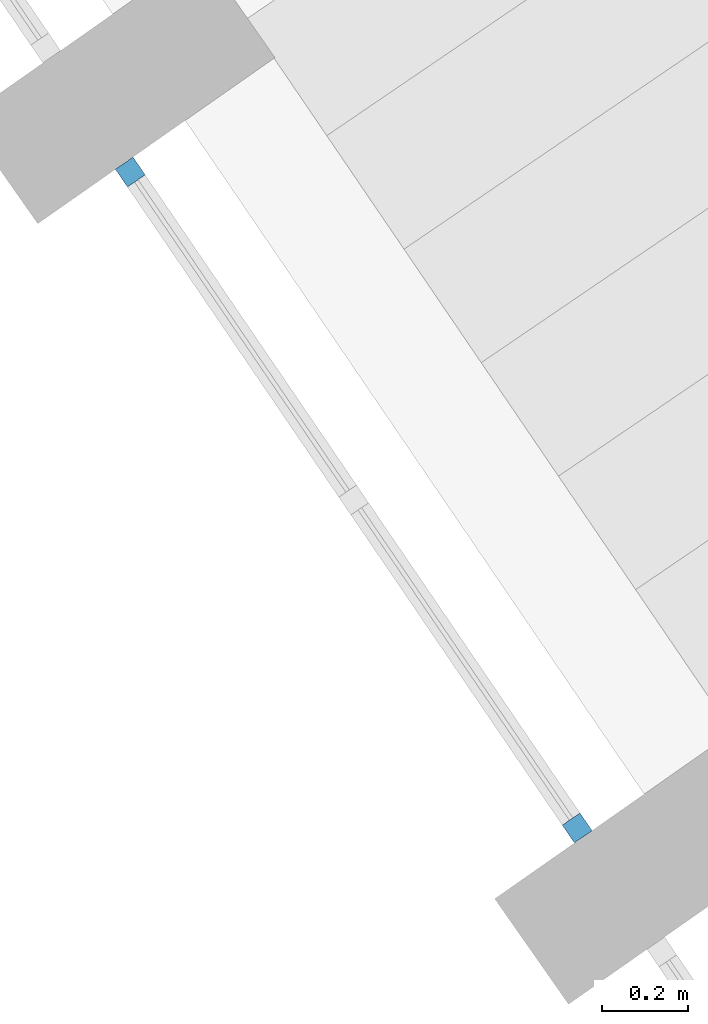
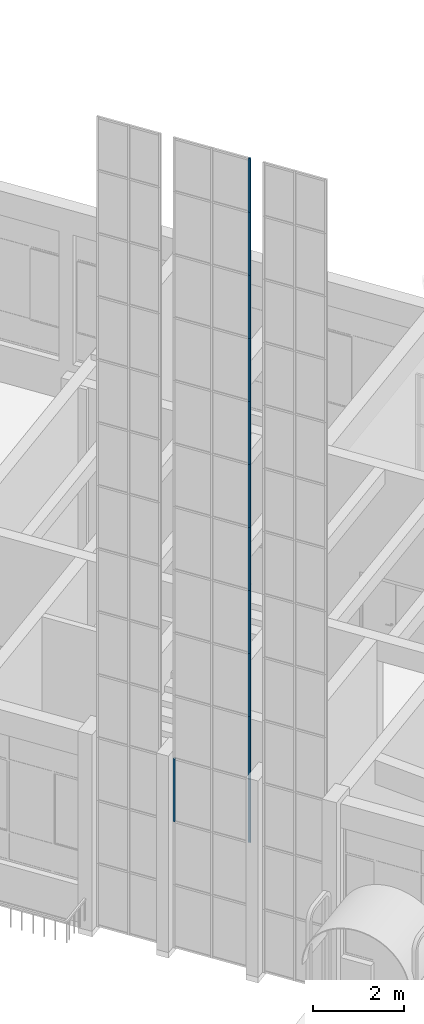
# One storey, part 12 of 157: 12 members, 1 element without a shape of its own.
"""IFC2X3 building model written with IfcOpenShell, lengths in millimetres."""

import ifcopenshell
import ifcopenshell.guid

model = None  # the IFC model being written
_history = None  # IfcOwnerHistory: only IFC2X3 demands one
_inside = {}  # id of a spatial element -> (the spatial element, [elements in it])
_under = {}  # id of a project, library or spatial element -> (it, [spatial elements below it])
_declared = {}  # id of a project -> (the project, [libraries it declares])
_typed = {}  # id of a type object -> (the type object, [elements of that type])
_made_of = {}  # id of a material, layer set ... -> (it, [elements and type objects made of it])


def new_model(schema):
    """Start an empty IFC model of exactly this schema.

    Asked for "IFC4X3", IfcOpenShell would pick the latest addendum, in which some entities
    have other attributes; the version numbers below select the first issue.
    IFC2X3 requires an IfcOwnerHistory on every rooted entity: one is made here for all.
    """
    global model, _history
    if schema == "IFC4X3":
        model = ifcopenshell.file(schema_version=(4, 3, 0, 0))
    else:
        model = ifcopenshell.file(schema=schema)
    _inside.clear()
    _under.clear()
    _declared.clear()
    _typed.clear()
    _made_of.clear()
    _history = None
    if model.schema == "IFC2X3":
        org = make("IfcOrganization", Name="unknown")
        user = make(
            "IfcPersonAndOrganization",
            ThePerson=make("IfcPerson", FamilyName="unknown"),
            TheOrganization=org,
        )
        app = make(
            "IfcApplication",
            ApplicationDeveloper=org,
            Version="unknown",
            ApplicationFullName="unknown",
            ApplicationIdentifier="unknown",
        )
        _history = make(
            "IfcOwnerHistory",
            OwningUser=user,
            OwningApplication=app,
            ChangeAction="ADDED",
            CreationDate=0,
        )
    return model


def make(cls, **values):
    """One entity of the class cls with the attributes given. An attribute that is None is left unset."""
    return model.create_entity(
        cls, **{name: value for name, value in values.items() if value is not None}
    )


def entity(cls, *values):
    """Any entity or typed value of the class cls, its attributes in the order of the schema. None: left unset."""
    e = model.create_entity(cls)
    for i, value in enumerate(values):
        if value is not None:
            e[i] = value
    return e


def rooted(cls, **values):
    """An entity with a GlobalId (a new one), such as an element, a storey or a relation."""
    return make(cls, GlobalId=ifcopenshell.guid.new(), OwnerHistory=_history, **values)


def si_unit(unit_type, name, prefix=None):
    """IfcSIUnit, for example si_unit("LENGTHUNIT", "METRE", prefix="MILLI")."""
    return make("IfcSIUnit", UnitType=unit_type, Prefix=prefix, Name=name)


def converted_unit(unit_type, name, factor, base, dimensions=None, offset=None):
    """IfcConversionBasedUnit, such as the inch: factor (a typed value) times the base unit."""
    return make(
        "IfcConversionBasedUnit"
        if offset is None
        else "IfcConversionBasedUnitWithOffset",
        ConversionOffset=offset,
        Dimensions=None
        if dimensions is None
        else entity("IfcDimensionalExponents", *dimensions),
        UnitType=unit_type,
        Name=name,
        ConversionFactor=make(
            "IfcMeasureWithUnit", ValueComponent=factor, UnitComponent=base
        ),
    )


def derived_unit(unit_type, elements):
    """IfcDerivedUnit: a product of units, each with its exponent."""
    return make(
        "IfcDerivedUnit",
        Elements=[
            make("IfcDerivedUnitElement", Unit=unit, Exponent=power)
            for unit, power in elements
        ],
        UnitType=unit_type,
    )


def assignment(units):
    """IfcUnitAssignment: the units of a project."""
    return None if units is None else make("IfcUnitAssignment", Units=units)


def point(xyz):
    """IfcCartesianPoint."""
    return None if xyz is None else make("IfcCartesianPoint", Coordinates=xyz)


def direction(xyz):
    """IfcDirection."""
    return None if xyz is None else make("IfcDirection", DirectionRatios=xyz)


def frame(location, z_axis=None, x_axis=None):
    """IfcAxis2Placement3D, a coordinate frame: its origin and axes. An axis left out is left unset."""
    return make(
        "IfcAxis2Placement3D",
        Location=point(location),
        Axis=direction(z_axis),
        RefDirection=direction(x_axis),
    )


def frame_2d(location, x_axis=None):
    """IfcAxis2Placement2D, a coordinate frame in the plane: its origin and x axis."""
    return make(
        "IfcAxis2Placement2D", Location=point(location), RefDirection=direction(x_axis)
    )


def origin():
    """The frame at (0, 0, 0) with its axes left unset."""
    return frame((0.0, 0.0, 0.0))


def origin_2d_with_axis():
    """The frame at (0, 0) in the plane with the x axis (1, 0) written out."""
    return frame_2d((0.0, 0.0), x_axis=(1.0, 0.0))


def place(relative_to, where):
    """IfcLocalPlacement: puts the frame where relative to a parent placement (None: the world)."""
    return make(
        "IfcLocalPlacement", PlacementRelTo=relative_to, RelativePlacement=where
    )


def context(
    kind, dimensions, precision=None, world=None, true_north=None, identifier=None
):
    """IfcGeometricRepresentationContext, for example the 3D "Model" context."""
    return make(
        "IfcGeometricRepresentationContext",
        ContextIdentifier=identifier,
        ContextType=kind,
        CoordinateSpaceDimension=dimensions,
        Precision=precision,
        WorldCoordinateSystem=world,
        TrueNorth=true_north,
    )


def subcontext(parent, identifier, kind, view, scale=None):
    """IfcGeometricRepresentationSubContext, for example "Body" below "Model"."""
    return make(
        "IfcGeometricRepresentationSubContext",
        ContextIdentifier=identifier,
        ContextType=kind,
        ParentContext=parent,
        TargetScale=scale,
        TargetView=view,
    )


def project(units=None, contexts=None):
    """IfcProject with its units and contexts."""
    return rooted(
        "IfcProject",
        Name="project",
        RepresentationContexts=contexts,
        UnitsInContext=assignment(units),
    )


def spatial(cls, under=None, at=None, **own):
    """A site, building, storey or space (cls), placed at a placement, below another one or the project."""
    s = rooted(cls, ObjectPlacement=at, **own)
    if under is not None:
        _under.setdefault(under.id(), (under, []))[1].append(s)
    return s


def profile(cls, at=None, kind="AREA", **sizes):
    """A parametric profile (cls). Its sizes go by their IFC names, for example OverallWidth=200.0."""
    return make(cls, ProfileType=kind, Position=at, **sizes)


def rectangle(**sizes):
    """IfcRectangleProfileDef."""
    return profile("IfcRectangleProfileDef", **sizes)


def extrude(swept, where, along, depth):
    """IfcExtrudedAreaSolid: the profile swept, set in the frame where, extruded along a direction by depth."""
    return make(
        "IfcExtrudedAreaSolid",
        SweptArea=swept,
        Position=where,
        ExtrudedDirection=direction(along),
        Depth=depth,
    )


def shape(context_of_items, identifier, shape_type, items):
    """IfcShapeRepresentation: the items that make up one representation, for example the "Body"."""
    return make(
        "IfcShapeRepresentation",
        ContextOfItems=context_of_items,
        RepresentationIdentifier=identifier,
        RepresentationType=shape_type,
        Items=items,
    )


def source(mapping_origin, context_of_items, identifier, shape_type, items):
    """IfcRepresentationMap: a shape defined once, which mapped items show again and again."""
    return make(
        "IfcRepresentationMap",
        MappingOrigin=mapping_origin,
        MappedRepresentation=shape(context_of_items, identifier, shape_type, items),
    )


def transform(
    local_origin,
    x_axis=None,
    y_axis=None,
    z_axis=None,
    scale=None,
    scale2=None,
    scale3=None,
    uniform=True,
):
    """IfcCartesianTransformationOperator3D, or its non-uniform kind. x_axis, y_axis, z_axis: its Axis1, 2, 3."""
    if uniform:
        return make(
            "IfcCartesianTransformationOperator3D",
            Axis1=direction(x_axis),
            Axis2=direction(y_axis),
            LocalOrigin=point(local_origin),
            Scale=scale,
            Axis3=direction(z_axis),
        )
    return make(
        "IfcCartesianTransformationOperator3DnonUniform",
        Axis1=direction(x_axis),
        Axis2=direction(y_axis),
        LocalOrigin=point(local_origin),
        Scale=scale,
        Axis3=direction(z_axis),
        Scale2=scale2,
        Scale3=scale3,
    )


def mapped(mapping_source, mapping_target):
    """IfcMappedItem: shows the shape of a source again, moved by a transform."""
    return make(
        "IfcMappedItem", MappingSource=mapping_source, MappingTarget=mapping_target
    )


def material(Name=None, Category=None):
    """IfcMaterial."""
    return make("IfcMaterial", Name=Name, Category=Category)


def made_of(thing, what):
    """Note that an element or type object is made of a material, layer set ...; save() writes the relation."""
    if what is not None:
        _made_of.setdefault(what.id(), (what, []))[1].append(thing)
    return thing


def type_object(cls, material=None, **own):
    """A type object (cls), such as IfcWallType, which elements share."""
    return made_of(rooted(cls, **own), material)


def type_shapes(of_type, sources):
    """Give a type object the sources (RepresentationMaps) that its elements show as mapped items."""
    of_type.RepresentationMaps = sources


def element(
    cls,
    number,
    at=None,
    inside=None,
    cuts=None,
    type_object=None,
    material=None,
    context=None,
    identifier="Body",
    shape_type=None,
    held_by="IfcProductDefinitionShape",
    body=None,
    shapes=None,
    **own,
):
    """One element of the class cls, such as IfcWall. Its Tag is "e" and its number.

    at: its placement. inside: the storey or other place that contains it. cuts: it is an
    opening in that element (IfcRelVoidsElement). A single representation is given by context,
    identifier, shape_type and body (its items); several are given by shapes. held_by: the class
    of the entity that holds the representations. save() writes the other relations.
    """
    e = rooted(cls, Tag="e%d" % number, ObjectPlacement=at, **own)
    if body is not None:
        shapes = [shape(context, identifier, shape_type, body)]
    if shapes is not None:
        e.Representation = make(held_by, Representations=shapes)
    if inside is not None:
        _inside.setdefault(inside.id(), (inside, []))[1].append(e)
    if cuts is not None:
        rooted(
            "IfcRelVoidsElement", RelatingBuildingElement=cuts, RelatedOpeningElement=e
        )
    if type_object is not None:
        _typed.setdefault(type_object.id(), (type_object, []))[1].append(e)
    return made_of(e, material)


def aggregate(whole, parts):
    """IfcRelAggregates: a whole, such as a stair, and the parts it consists of."""
    return rooted("IfcRelAggregates", RelatingObject=whole, RelatedObjects=parts)


def save(model, path):
    """Write the relations noted so far, then the file.

    IfcRelAggregates (storeys below a building ...), IfcRelContainedInSpatialStructure (elements
    in a storey), IfcRelDefinesByType, IfcRelAssociatesMaterial and IfcRelDeclares: one each for
    every whole, place, type object, material and project.
    """
    for whole, parts in _under.values():
        aggregate(whole, parts)
    for where, things in _inside.values():
        rooted(
            "IfcRelContainedInSpatialStructure",
            RelatedElements=things,
            RelatingStructure=where,
        )
    for kind, things in _typed.values():
        rooted("IfcRelDefinesByType", RelatedObjects=things, RelatingType=kind)
    for what, things in _made_of.values():
        rooted("IfcRelAssociatesMaterial", RelatedObjects=things, RelatingMaterial=what)
    for by, libraries in _declared.values():
        rooted("IfcRelDeclares", RelatingContext=by, RelatedDefinitions=libraries)
    model.write(path)


model = new_model("IFC2X3")

# Units and contexts
model_context = context("Model", 3, precision=0.01, world=origin(), true_north=direction((6.123031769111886e-17, 1.0)))
body_context = subcontext(model_context, "Body", "Model", "MODEL_VIEW")
ifc_project = project(units=[si_unit("LENGTHUNIT", "METRE", prefix="MILLI"), si_unit("AREAUNIT", "SQUARE_METRE"), si_unit("VOLUMEUNIT", "CUBIC_METRE"), converted_unit("PLANEANGLEUNIT", "DEGREE", entity("IfcRatioMeasure", 0.017453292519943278), si_unit("PLANEANGLEUNIT", "RADIAN"), dimensions=[0, 0, 0, 0, 0, 0, 0]), si_unit("MASSUNIT", "GRAM", prefix="KILO"), derived_unit("MASSDENSITYUNIT", [(si_unit("MASSUNIT", "GRAM", prefix="KILO"), 1), (si_unit("LENGTHUNIT", "METRE"), -3)]), derived_unit("MOMENTOFINERTIAUNIT", [(si_unit("LENGTHUNIT", "METRE"), 4)]), si_unit("TIMEUNIT", "SECOND"), si_unit("FREQUENCYUNIT", "HERTZ"), si_unit("THERMODYNAMICTEMPERATUREUNIT", "DEGREE_CELSIUS"), derived_unit("THERMALTRANSMITTANCEUNIT", [(si_unit("MASSUNIT", "GRAM", prefix="KILO"), 1), (si_unit("THERMODYNAMICTEMPERATUREUNIT", "KELVIN"), -1), (si_unit("TIMEUNIT", "SECOND"), -3)]), derived_unit("THERMALCONDUCTANCEUNIT", [(si_unit("MASSUNIT", "GRAM", prefix="KILO"), 1), (si_unit("LENGTHUNIT", "METRE"), 1), (si_unit("THERMODYNAMICTEMPERATUREUNIT", "KELVIN"), -1), (si_unit("TIMEUNIT", "SECOND"), -3)]), derived_unit("VOLUMETRICFLOWRATEUNIT", [(si_unit("LENGTHUNIT", "METRE"), 3), (si_unit("TIMEUNIT", "SECOND"), -1)]), derived_unit("MASSFLOWRATEUNIT", [(si_unit("MASSUNIT", "GRAM", prefix="KILO"), 1), (si_unit("TIMEUNIT", "SECOND"), -1)]), derived_unit("ROTATIONALFREQUENCYUNIT", [(si_unit("TIMEUNIT", "SECOND"), -1)]), si_unit("ELECTRICCURRENTUNIT", "AMPERE"), si_unit("ELECTRICVOLTAGEUNIT", "VOLT"), si_unit("POWERUNIT", "WATT"), converted_unit("FORCEUNIT", "KIP", entity("IfcRatioMeasure", 2.088543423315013e-05), si_unit("FORCEUNIT", "NEWTON"), dimensions=[1, 1, -2, 0, 0, 0, 0]), si_unit("ILLUMINANCEUNIT", "LUX"), si_unit("LUMINOUSFLUXUNIT", "LUMEN"), si_unit("LUMINOUSINTENSITYUNIT", "CANDELA"), derived_unit("USERDEFINED", [(si_unit("MASSUNIT", "GRAM", prefix="KILO"), -1), (si_unit("LENGTHUNIT", "METRE"), -2), (si_unit("TIMEUNIT", "SECOND"), 3), (si_unit("LUMINOUSFLUXUNIT", "LUMEN"), 1)]), derived_unit("USERDEFINED", [(si_unit("MASSUNIT", "GRAM", prefix="KILO"), 1), (si_unit("LENGTHUNIT", "METRE"), 3), (si_unit("TIMEUNIT", "SECOND"), -3), (si_unit("ELECTRICCURRENTUNIT", "AMPERE"), -2)]), derived_unit("USERDEFINED", [(si_unit("LENGTHUNIT", "METRE"), 2), (si_unit("TIMEUNIT", "SECOND"), -2)]), derived_unit("SOUNDPOWERUNIT", [(si_unit("MASSUNIT", "GRAM", prefix="KILO"), 1), (si_unit("LENGTHUNIT", "METRE"), 2), (si_unit("TIMEUNIT", "SECOND"), -3)]), derived_unit("SOUNDPRESSUREUNIT", [(si_unit("MASSUNIT", "GRAM", prefix="KILO"), 1), (si_unit("LENGTHUNIT", "METRE"), -1), (si_unit("TIMEUNIT", "SECOND"), -2)]), derived_unit("LINEARVELOCITYUNIT", [(si_unit("LENGTHUNIT", "METRE"), 1), (si_unit("TIMEUNIT", "SECOND"), -1)]), si_unit("PRESSUREUNIT", "PASCAL"), derived_unit("USERDEFINED", [(si_unit("LENGTHUNIT", "METRE"), -2), (si_unit("MASSUNIT", "GRAM", prefix="KILO"), 1), (si_unit("TIMEUNIT", "SECOND"), -2)]), derived_unit("LINEARFORCEUNIT", [(si_unit("MASSUNIT", "GRAM", prefix="KILO"), 1), (si_unit("LENGTHUNIT", "METRE"), 1), (si_unit("TIMEUNIT", "SECOND"), -2), (si_unit("LENGTHUNIT", "METRE"), -1)]), derived_unit("PLANARFORCEUNIT", [(si_unit("MASSUNIT", "GRAM", prefix="KILO"), 1), (si_unit("LENGTHUNIT", "METRE"), 1), (si_unit("TIMEUNIT", "SECOND"), -2), (si_unit("LENGTHUNIT", "METRE"), -2)]), derived_unit("SPECIFICHEATCAPACITYUNIT", [(si_unit("LENGTHUNIT", "METRE"), 2), (si_unit("TIMEUNIT", "SECOND"), -2), (si_unit("THERMODYNAMICTEMPERATUREUNIT", "KELVIN"), -1)]), derived_unit("VAPORPERMEABILITYUNIT", [(si_unit("TIMEUNIT", "SECOND"), 1), (si_unit("LENGTHUNIT", "METRE"), -1)]), derived_unit("DYNAMICVISCOSITYUNIT", [(si_unit("MASSUNIT", "GRAM", prefix="KILO"), 1), (si_unit("LENGTHUNIT", "METRE"), -1), (si_unit("TIMEUNIT", "SECOND"), -1)]), derived_unit("THERMALEXPANSIONCOEFFICIENTUNIT", [(si_unit("THERMODYNAMICTEMPERATUREUNIT", "KELVIN"), -1)])], contexts=[model_context])

# Site, building, storey
site_placement = place(None, frame((0.0, 0.0, 0.0), z_axis=(0.0, 0.0, 1.0), x_axis=(0.8191520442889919, 0.5735764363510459, 0.0)))
site = spatial("IfcSite", under=ifc_project, at=site_placement, Name="Default", CompositionType="ELEMENT")
building_placement = place(site_placement, origin())
building = spatial("IfcBuilding", under=site, at=building_placement, CompositionType="ELEMENT")
storey_placement = place(building_placement, origin())
storey = spatial("IfcBuildingStorey", under=building, at=storey_placement, Name="1.EG +0.00", CompositionType="ELEMENT", Elevation=-4.331468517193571e-12)

# Curtain wall, members
curtain_wall_type = type_object("IfcCurtainWallType", Name="Curtain Wall:Curtain_Wall_CJC 2", PredefinedType="NOTDEFINED")
curtain_wall_placement = place(storey_placement, origin())
curtain_wall = element("IfcCurtainWall", 1, at=curtain_wall_placement, inside=storey, type_object=curtain_wall_type, Name="Curtain Wall:Curtain_Wall_CJC 2", ObjectType="Curtain Wall:Curtain_Wall_CJC 2")
ifc_material = material(Name="Aluminium")
member_type_1 = type_object("IfcMemberType", Name="Rectangular Mullion:5x5", PredefinedType="MULLION", material=ifc_material)
shared_shape_1 = source(origin(), body_context, "Body", "SweptSolid", [
    extrude(rectangle(XDim=50.0, YDim=50.0, at=origin_2d_with_axis()), frame((-25.0, 0.0, -1700.0), z_axis=(0.0, 0.0, 1.0), x_axis=(0.0, -1.0, 0.0)), (0.0, 0.0, 1.0), 1700.0000000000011),
])
type_shapes(member_type_1, [shared_shape_1])
member_1_placement = place(curtain_wall_placement, frame((-223098.59251653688, 111745.23194626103, 5100.0), z_axis=(0.0, 0.0, 1.0), x_axis=(-0.01272958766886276, -0.999918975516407, 0.0)))
member_1 = element("IfcMember", 2, at=member_1_placement, type_object=member_type_1, material=ifc_material, Name="Rectangular Mullion:5x5", ObjectType="Rectangular Mullion:5x5", context=body_context, shape_type="MappedRepresentation", body=[
    mapped(shared_shape_1, transform((0.0, 0.0, 0.0), scale=1.0)),
])
member_2_placement = place(curtain_wall_placement, frame((-223098.59251653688, 111745.23194626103, 6800.0), z_axis=(0.0, 0.0, 1.0), x_axis=(-0.01272958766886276, -0.999918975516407, 0.0)))
member_2 = element("IfcMember", 3, at=member_2_placement, type_object=member_type_1, material=ifc_material, Name="Rectangular Mullion:5x5", ObjectType="Rectangular Mullion:5x5", context=body_context, shape_type="MappedRepresentation", body=[
    mapped(shared_shape_1, transform((0.0, 0.0, 0.0), scale=1.0)),
])
member_3_placement = place(curtain_wall_placement, frame((-223098.59251653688, 111745.23194626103, 8500.0), z_axis=(0.0, 0.0, 1.0), x_axis=(-0.01272958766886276, -0.999918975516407, 0.0)))
member_3 = element("IfcMember", 4, at=member_3_placement, type_object=member_type_1, material=ifc_material, Name="Rectangular Mullion:5x5", ObjectType="Rectangular Mullion:5x5", context=body_context, shape_type="MappedRepresentation", body=[
    mapped(shared_shape_1, transform((0.0, 0.0, 0.0), scale=1.0)),
])
member_4_placement = place(curtain_wall_placement, frame((-223098.59251653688, 111745.23194626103, 10200.0), z_axis=(0.0, 0.0, 1.0), x_axis=(-0.01272958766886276, -0.999918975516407, 0.0)))
member_4 = element("IfcMember", 5, at=member_4_placement, type_object=member_type_1, material=ifc_material, Name="Rectangular Mullion:5x5", ObjectType="Rectangular Mullion:5x5", context=body_context, shape_type="MappedRepresentation", body=[
    mapped(shared_shape_1, transform((0.0, 0.0, 0.0), scale=1.0)),
])
member_5_placement = place(curtain_wall_placement, frame((-223098.59251653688, 111745.23194626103, 11900.0), z_axis=(0.0, 0.0, 1.0), x_axis=(-0.01272958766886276, -0.999918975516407, 0.0)))
member_5 = element("IfcMember", 6, at=member_5_placement, type_object=member_type_1, material=ifc_material, Name="Rectangular Mullion:5x5", ObjectType="Rectangular Mullion:5x5", context=body_context, shape_type="MappedRepresentation", body=[
    mapped(shared_shape_1, transform((0.0, 0.0, 0.0), scale=1.0)),
])
member_6_placement = place(curtain_wall_placement, frame((-223098.59251653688, 111745.23194626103, 13600.0), z_axis=(0.0, 0.0, 1.0), x_axis=(-0.01272958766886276, -0.999918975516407, 0.0)))
member_6 = element("IfcMember", 7, at=member_6_placement, type_object=member_type_1, material=ifc_material, Name="Rectangular Mullion:5x5", ObjectType="Rectangular Mullion:5x5", context=body_context, shape_type="MappedRepresentation", body=[
    mapped(shared_shape_1, transform((0.0, 0.0, 0.0), scale=1.0)),
])
member_7_placement = place(curtain_wall_placement, frame((-223098.59251653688, 111745.23194626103, 15300.0), z_axis=(0.0, 0.0, 1.0), x_axis=(-0.01272958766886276, -0.999918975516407, 0.0)))
member_7 = element("IfcMember", 8, at=member_7_placement, type_object=member_type_1, material=ifc_material, Name="Rectangular Mullion:5x5", ObjectType="Rectangular Mullion:5x5", context=body_context, shape_type="MappedRepresentation", body=[
    mapped(shared_shape_1, transform((0.0, 0.0, 0.0), scale=1.0)),
])
member_8_placement = place(curtain_wall_placement, frame((-223098.59251653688, 111745.23194626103, 17000.0), z_axis=(0.0, 0.0, 1.0), x_axis=(-0.01272958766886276, -0.999918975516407, 0.0)))
member_8 = element("IfcMember", 9, at=member_8_placement, type_object=member_type_1, material=ifc_material, Name="Rectangular Mullion:5x5", ObjectType="Rectangular Mullion:5x5", context=body_context, shape_type="MappedRepresentation", body=[
    mapped(shared_shape_1, transform((0.0, 0.0, 0.0), scale=1.0)),
])
member_9_placement = place(curtain_wall_placement, frame((-223098.59251653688, 111745.23194626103, 18700.0), z_axis=(0.0, 0.0, 1.0), x_axis=(-0.01272958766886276, -0.999918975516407, 0.0)))
member_9 = element("IfcMember", 10, at=member_9_placement, type_object=member_type_1, material=ifc_material, Name="Rectangular Mullion:5x5", ObjectType="Rectangular Mullion:5x5", context=body_context, shape_type="MappedRepresentation", body=[
    mapped(shared_shape_1, transform((0.0, 0.0, 0.0), scale=1.0)),
])
member_10_placement = place(curtain_wall_placement, frame((-223098.59251653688, 111745.23194626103, 20400.0), z_axis=(0.0, 0.0, 1.0), x_axis=(-0.01272958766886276, -0.999918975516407, 0.0)))
member_10 = element("IfcMember", 11, at=member_10_placement, type_object=member_type_1, material=ifc_material, Name="Rectangular Mullion:5x5", ObjectType="Rectangular Mullion:5x5", context=body_context, shape_type="MappedRepresentation", body=[
    mapped(shared_shape_1, transform((0.0, 0.0, 0.0), scale=1.0)),
])
member_type_2 = type_object("IfcMemberType", Name="Rectangular Mullion:5x5", PredefinedType="MULLION", material=ifc_material)
shared_shape_2 = source(origin(), body_context, "Body", "SweptSolid", [
    extrude(rectangle(XDim=50.0, YDim=50.0, at=origin_2d_with_axis()), frame((-25.0, 0.0, -1450.0), z_axis=(0.0, 0.0, 1.0), x_axis=(0.0, -1.0, 0.0)), (0.0, 0.0, 1.0), 1450.0000000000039),
])
type_shapes(member_type_2, [shared_shape_2])
member_11_placement = place(curtain_wall_placement, frame((-223098.59251653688, 111745.23194626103, 21850.0), z_axis=(0.0, 0.0, 1.0), x_axis=(-0.01272958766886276, -0.999918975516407, 0.0)))
member_11 = element("IfcMember", 12, at=member_11_placement, type_object=member_type_2, material=ifc_material, Name="Rectangular Mullion:5x5", ObjectType="Rectangular Mullion:5x5", context=body_context, shape_type="MappedRepresentation", body=[
    mapped(shared_shape_2, transform((0.0, 0.0, 0.0), scale=1.0)),
])
member_type_3 = type_object("IfcMemberType", Name="Rectangular Mullion:5x5", PredefinedType="MULLION", material=ifc_material)
shared_shape_3 = source(origin(), body_context, "Body", "SweptSolid", [
    extrude(rectangle(XDim=50.0, YDim=50.0, at=origin_2d_with_axis()), frame((-25.0, 0.0, -1700.0), z_axis=(0.0, 0.0, 1.0), x_axis=(0.0, -1.0, 0.0)), (0.0, 0.0, 1.0), 1700.0),
])
type_shapes(member_type_3, [shared_shape_3])
member_12_placement = place(curtain_wall_placement, frame((-223074.40434013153, 113645.23194626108, 3400.0), z_axis=(0.0, 0.0, -1.0), x_axis=(0.01272958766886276, 0.999918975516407, 0.0)))
member_12 = element("IfcMember", 13, at=member_12_placement, type_object=member_type_3, material=ifc_material, Name="Rectangular Mullion:5x5", ObjectType="Rectangular Mullion:5x5", context=body_context, shape_type="MappedRepresentation", body=[
    mapped(shared_shape_3, transform((0.0, 0.0, 0.0), scale=1.0)),
])
aggregate(curtain_wall, [member_11, member_12, member_1, member_2, member_3, member_4, member_5, member_6, member_7, member_8, member_9, member_10])

save(model, "model.ifc")
